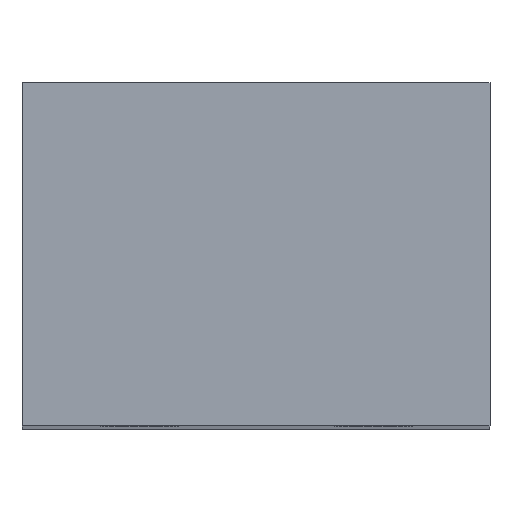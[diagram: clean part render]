
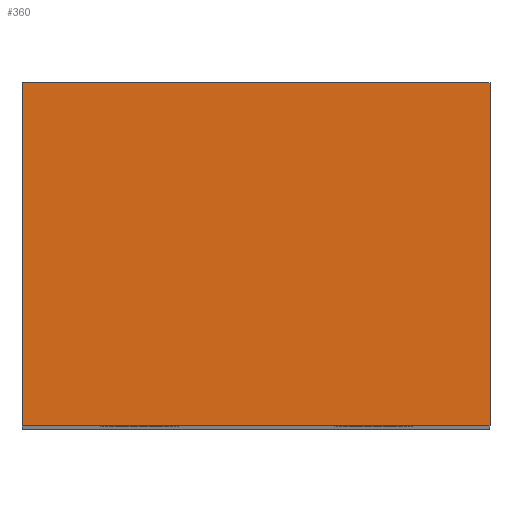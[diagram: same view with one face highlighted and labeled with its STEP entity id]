
A CAD part, top view. The second image highlights one B-rep face of the part: STEP entity #360.
In plain terms, the highlighted planar face has unit normal (0, 0, 1).
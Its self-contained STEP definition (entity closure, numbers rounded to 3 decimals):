
#187 = CARTESIAN_POINT ( 'NONE',  ( 15., -11., 65. ) ) ;
#351 = EDGE_LOOP ( 'NONE', ( #357, #359, #358, #429 ) ) ;
#357 = ORIENTED_EDGE ( 'NONE', *, *, #361, .T. ) ;
#358 = ORIENTED_EDGE ( 'NONE', *, *, #408, .F. ) ;
#359 = ORIENTED_EDGE ( 'NONE', *, *, #362, .F. ) ;
#360 = ADVANCED_FACE ( 'NONE', ( #596 ), #558, .F. ) ;
#361 = EDGE_CURVE ( 'NONE', #363, #528, #549, .T. ) ;
#362 = EDGE_CURVE ( 'NONE', #369, #528, #601, .T. ) ;
#363 = VERTEX_POINT ( 'NONE', #602 ) ;
#365 = EDGE_CURVE ( 'NONE', #367, #363, #556, .T. ) ;
#367 = VERTEX_POINT ( 'NONE', #582 ) ;
#369 = VERTEX_POINT ( 'NONE', #578 ) ;
#408 = EDGE_CURVE ( 'NONE', #367, #369, #650, .T. ) ;
#429 = ORIENTED_EDGE ( 'NONE', *, *, #365, .T. ) ;
#528 = VERTEX_POINT ( 'NONE', #187 ) ;
#547 = VECTOR ( 'NONE', #566, 1000. ) ;
#548 = CARTESIAN_POINT ( 'NONE',  ( -15., -11., 65. ) ) ;
#549 = LINE ( 'NONE', #548, #547 ) ;
#550 = DIRECTION ( 'NONE',  ( -1., 0., 0. ) ) ;
#553 = DIRECTION ( 'NONE',  ( 0., -1., 0. ) ) ;
#554 = VECTOR ( 'NONE', #553, 1000. ) ;
#555 = CARTESIAN_POINT ( 'NONE',  ( -15., 11., 65. ) ) ;
#556 = LINE ( 'NONE', #555, #554 ) ;
#558 = PLANE ( 'NONE',  #583 ) ;
#566 = DIRECTION ( 'NONE',  ( 1., 0., 0. ) ) ;
#578 = CARTESIAN_POINT ( 'NONE',  ( 15., 11., 65. ) ) ;
#582 = CARTESIAN_POINT ( 'NONE',  ( -15., 11., 65. ) ) ;
#583 = AXIS2_PLACEMENT_3D ( 'NONE', #595, #584, #550 ) ;
#584 = DIRECTION ( 'NONE',  ( 0., 0., -1. ) ) ;
#585 = DIRECTION ( 'NONE',  ( 0., -1., 0. ) ) ;
#595 = CARTESIAN_POINT ( 'NONE',  ( -15., 11., 65. ) ) ;
#596 = FACE_OUTER_BOUND ( 'NONE', #351, .T. ) ;
#599 = VECTOR ( 'NONE', #585, 1000. ) ;
#600 = CARTESIAN_POINT ( 'NONE',  ( 15., 11., 65. ) ) ;
#601 = LINE ( 'NONE', #600, #599 ) ;
#602 = CARTESIAN_POINT ( 'NONE',  ( -15., -11., 65. ) ) ;
#647 = DIRECTION ( 'NONE',  ( 1., 0., 0. ) ) ;
#648 = VECTOR ( 'NONE', #647, 1000. ) ;
#649 = CARTESIAN_POINT ( 'NONE',  ( -15., 11., 65. ) ) ;
#650 = LINE ( 'NONE', #649, #648 ) ;
